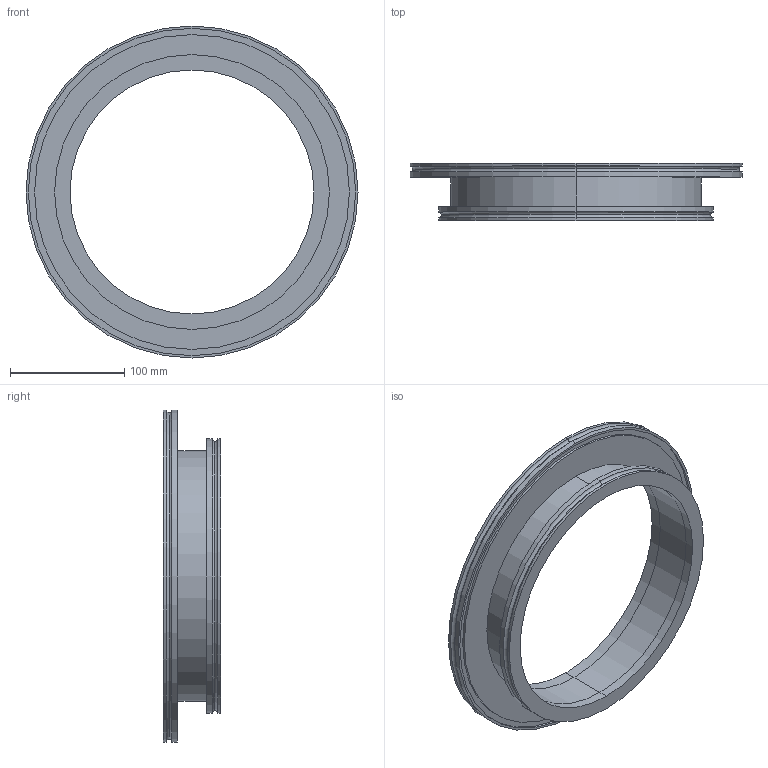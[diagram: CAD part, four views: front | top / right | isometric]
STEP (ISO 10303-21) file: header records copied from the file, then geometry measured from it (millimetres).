
FILE_DESCRIPTION (( 'STEP AP214' ), '1' );
FILE_NAME ('W4RS200-250.STEP', '2020-10-06T08:32:49', ( '' ), ( '' ), 'SwSTEP 2.0', 'SolidWorks 2020', '' );
FILE_SCHEMA (( 'AUTOMOTIVE_DESIGN' ));
Length unit declared in the file: millimetre
Products named in the file (1): W4RS200-250
Bounding box: 290 x 50 x 290 mm (x, y, z)
Volume: 476186 mm3; surface area: 179066.5 mm2
Topology: 3 solids, 3 shells, 51 faces, 102 edges, 64 vertices
Faces by surface type: cylinder 30, plane 13, torus 8
Entity records: 1416 total; most frequent: DIRECTION 278, CARTESIAN_POINT 218, ORIENTED_EDGE 204, AXIS2_PLACEMENT_3D 124, EDGE_CURVE 102, CIRCLE 72, EDGE_LOOP 64, VERTEX_POINT 64
